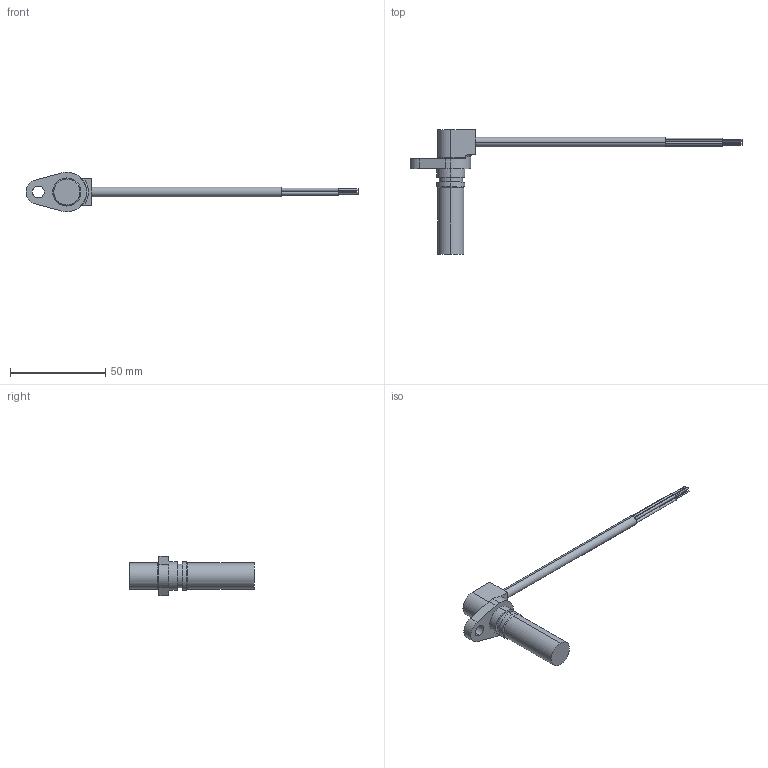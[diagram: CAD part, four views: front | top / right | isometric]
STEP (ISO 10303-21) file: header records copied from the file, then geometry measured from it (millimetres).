
FILE_DESCRIPTION (( 'STEP AP214' ), '1' );
FILE_NAME ('GTS45-flying_leads.STEP', '2013-08-02T06:35:31', ( '' ), ( '' ), 'SwSTEP 2.0', 'SolidWorks 2013', '' );
FILE_SCHEMA (( 'AUTOMOTIVE_DESIGN' ));
Length unit declared in the file: millimetre
Products named in the file (1): GTS45-flying_leads
Bounding box: 174.58 x 65.5 x 20.8 mm (x, y, z)
Volume: 15301.6 mm3; surface area: 6848.8 mm2
Topology: 1 solids, 1 shells, 73 faces, 162 edges, 106 vertices
Faces by surface type: cylinder 37, plane 32, cone 2, torus 2
Entity records: 2427 total; most frequent: DIRECTION 382, CARTESIAN_POINT 376, ORIENTED_EDGE 324, EDGE_CURVE 162, AXIS2_PLACEMENT_3D 150, VERTEX_POINT 106, EDGE_LOOP 90, LINE 82
